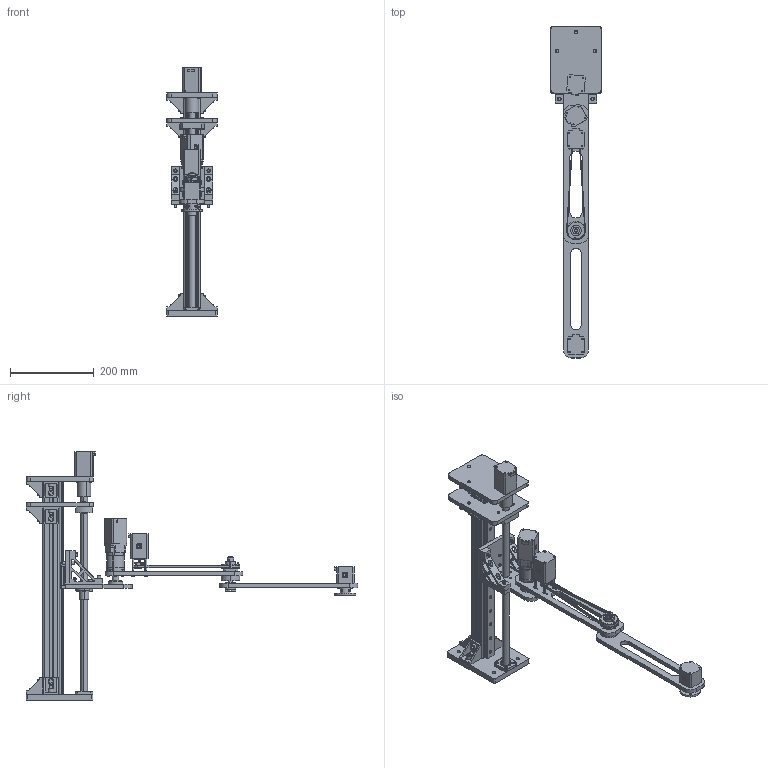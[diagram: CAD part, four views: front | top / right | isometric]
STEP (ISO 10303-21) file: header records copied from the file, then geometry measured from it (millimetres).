
FILE_DESCRIPTION (( 'STEP AP203' ), '1' );
FILE_NAME ('SCARA_equal_275.step', '2026-10-09T12:35:24', ( '' ), ( '' ), 'SwSTEP 2.0', 'SolidWorks 2026', '' );
FILE_SCHEMA (( 'CONFIG_CONTROL_DESIGN' ));
Length unit declared in the file: millimetre
Products named in the file (49): EQ275_40x40x500; EQ275_L型支架竖板; EQ275_M3内六角x12mm; EQ275_内径8mm法兰; EQ275_40T型螺母M8孔; EQ275_单头六角螺柱M3x30+6; EQ275_DLE42-L2BJ-长款50; EQ275_MGW12H滑块; EQ275_42步进电机L40; EQ275_电机支撑铝板; EQ275_8-16联轴器; EQ275_第二机械臂; EQ275_MGW12_500mm_MGW12R270; EQ275_GT20同步轮; EQ275_M3内六角x10mm; EQ275_M4内六角x18mm; EQ275_FF固定铝板; 装配体1^EQ275_SCARA四轴机械臂总成; SCARA_equal_275; EQ275_FF ______________[FF12]; EQ275_8x10x3mm轴套; EQ275_8mm键槽法兰; EQ275_底座; EQ275_T型丝杆螺母; EQ275_紧凑型轴承座; EQ275_M5内六角x16; EQ275_61mm光轴; EQ275_40型材角件; EQ275_SKF_608-2ZZ; EQ275_M3x4mm紧固螺丝; EQ275_M3内六角x16mm; EQ275_FF丝杆支撑座[FF10]_FF10; EQ275_轴承座8mm内径; EQ275_M3内六角小头x16mm; EQ275_M4内六角x16mm; EQ275_光轴固定环; EQ275_L型支架底座; EQ275_方键条销; EQ275_铝型材挤压角座; EQ275_T型丝杆500mm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
Assembly tree (157 placements, depth 3):
  SCARA_equal_275
    EQ275_40x40x500
    EQ275_底座
    EQ275_40型材M4T型螺母  x7
    EQ275_MGW12H滑块
    EQ275_MGW12_500mm_MGW12R270
    EQ275_42步进电机L60  x3
    EQ275_DLE42-L2BJ-长款50
    EQ275_FF固定铝板
    EQ275_40型材角件  x9
    EQ275_电机支撑铝板
    EQ275_单头六角螺柱M3x30+6  x4
    EQ275_L型支架底座
    EQ275_L型支架竖板
    EQ275_铝型材挤压角座  x2
    EQ275_方键条销
    EQ275_第二机械臂
    EQ275_J1机械臂
    EQ275_42步进电机L40
    EQ275_轴承座8mm内径
    EQ275_FF ______________[FF12]
    EQ275_SKF_608-2ZZ
    EQ275_内径8mm法兰
    装配体1^EQ275_SCARA四轴机械臂总成
      EQ275_GT20同步轮
      EQ275_GT60同步轮
      皮带1-2^装配体1_EQ275_SCARA四轴机械臂总成
    EQ275_40T型螺母M8孔  x9
    EQ275_M8内六角x18mm  x9
    EQ275_M8内六角x16mm  x9
    EQ275_M3内六角x16mm  x8
    EQ275_M4内六角x16mm  x14
    EQ275_M6内六角x22  x8
    EQ275_M3内六角x12mm  x12
    EQ275_M5内六角x16  x4
    EQ275_M3x4mm紧固螺丝  x8
    EQ275_M4内六角x18mm  x7
    EQ275_M3内六角x10mm  x4
    EQ275_8mm键槽法兰
    EQ275_光轴固定环
    EQ275_8x10x3mm轴套
    EQ275_T型丝杆500mm
    EQ275_8-16联轴器
    EQ275_紧凑型轴承座
    EQ275_T型丝杆螺母
    EQ275_M6小头内六角x22  x2
    EQ275_FF丝杆支撑座[FF10]_FF10
    EQ275_M3内六角小头x16mm  x8
    EQ275_61mm光轴
Bounding box: 120 x 794 x 594 mm (x, y, z)
Volume: 2474778.7 mm3; surface area: 925784.5 mm2
Topology: 207 solids, 207 shells, 4010 faces, 9940 edges, 6495 vertices
Faces by surface type: plane 2172, cylinder 1439, sphere 140, torus 90, cone 88, bspline 81
Entity records: 80730 total; most frequent: CARTESIAN_POINT 17365, DIRECTION 11998, ORIENTED_EDGE 11016, EDGE_CURVE 5508, AXIS2_PLACEMENT_3D 4668, VERTEX_POINT 3619, EDGE_LOOP 2767, VECTOR 2662
